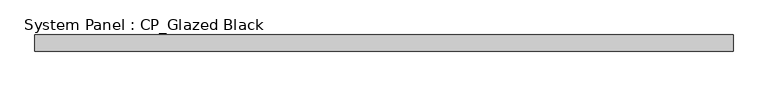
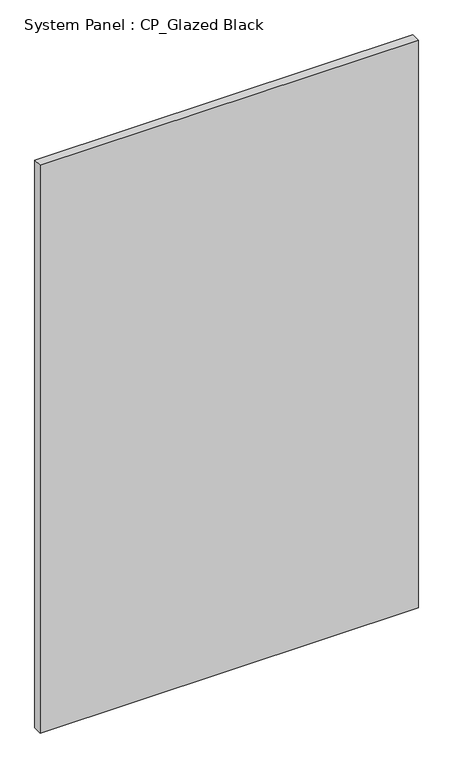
"""IFC4 building model written with IfcOpenShell, lengths in millimetres: plate geometry, System Panel : CP_Glazed Black."""

import ifcopenshell
import ifcopenshell.guid

model = None  # the IFC model being written
_history = None  # IfcOwnerHistory: only IFC2X3 demands one
_inside = {}  # id of a spatial element -> (the spatial element, [elements in it])
_under = {}  # id of a project, library or spatial element -> (it, [spatial elements below it])
_declared = {}  # id of a project -> (the project, [libraries it declares])
_typed = {}  # id of a type object -> (the type object, [elements of that type])
_made_of = {}  # id of a material, layer set ... -> (it, [elements and type objects made of it])


def new_model(schema):
    """Start an empty IFC model of exactly this schema.

    Asked for "IFC4X3", IfcOpenShell would pick the latest addendum, in which some entities
    have other attributes; the version numbers below select the first issue.
    IFC2X3 requires an IfcOwnerHistory on every rooted entity: one is made here for all.
    """
    global model, _history
    if schema == "IFC4X3":
        model = ifcopenshell.file(schema_version=(4, 3, 0, 0))
    else:
        model = ifcopenshell.file(schema=schema)
    _inside.clear()
    _under.clear()
    _declared.clear()
    _typed.clear()
    _made_of.clear()
    _history = None
    if model.schema == "IFC2X3":
        org = make("IfcOrganization", Name="unknown")
        user = make(
            "IfcPersonAndOrganization",
            ThePerson=make("IfcPerson", FamilyName="unknown"),
            TheOrganization=org,
        )
        app = make(
            "IfcApplication",
            ApplicationDeveloper=org,
            Version="unknown",
            ApplicationFullName="unknown",
            ApplicationIdentifier="unknown",
        )
        _history = make(
            "IfcOwnerHistory",
            OwningUser=user,
            OwningApplication=app,
            ChangeAction="ADDED",
            CreationDate=0,
        )
    return model


def make(cls, **values):
    """One entity of the class cls with the attributes given. An attribute that is None is left unset."""
    return model.create_entity(
        cls, **{name: value for name, value in values.items() if value is not None}
    )


def rooted(cls, **values):
    """An entity with a GlobalId (a new one), such as an element, a storey or a relation."""
    return make(cls, GlobalId=ifcopenshell.guid.new(), OwnerHistory=_history, **values)


def si_unit(unit_type, name, prefix=None):
    """IfcSIUnit, for example si_unit("LENGTHUNIT", "METRE", prefix="MILLI")."""
    return make("IfcSIUnit", UnitType=unit_type, Prefix=prefix, Name=name)


def assignment(units):
    """IfcUnitAssignment: the units of a project."""
    return None if units is None else make("IfcUnitAssignment", Units=units)


def point(xyz):
    """IfcCartesianPoint."""
    return None if xyz is None else make("IfcCartesianPoint", Coordinates=xyz)


def direction(xyz):
    """IfcDirection."""
    return None if xyz is None else make("IfcDirection", DirectionRatios=xyz)


def frame(location, z_axis=None, x_axis=None):
    """IfcAxis2Placement3D, a coordinate frame: its origin and axes. An axis left out is left unset."""
    return make(
        "IfcAxis2Placement3D",
        Location=point(location),
        Axis=direction(z_axis),
        RefDirection=direction(x_axis),
    )


def origin():
    """The frame at (0, 0, 0) with its axes left unset."""
    return frame((0.0, 0.0, 0.0))


def origin_with_axes():
    """The frame at (0, 0, 0) with the z axis (0, 0, 1) and the x axis (1, 0, 0) written out."""
    return frame((0.0, 0.0, 0.0), z_axis=(0.0, 0.0, 1.0), x_axis=(1.0, 0.0, 0.0))


def place(relative_to, where):
    """IfcLocalPlacement: puts the frame where relative to a parent placement (None: the world)."""
    return make(
        "IfcLocalPlacement", PlacementRelTo=relative_to, RelativePlacement=where
    )


def context(
    kind, dimensions, precision=None, world=None, true_north=None, identifier=None
):
    """IfcGeometricRepresentationContext, for example the 3D "Model" context."""
    return make(
        "IfcGeometricRepresentationContext",
        ContextIdentifier=identifier,
        ContextType=kind,
        CoordinateSpaceDimension=dimensions,
        Precision=precision,
        WorldCoordinateSystem=world,
        TrueNorth=true_north,
    )


def project(units=None, contexts=None):
    """IfcProject with its units and contexts."""
    return rooted(
        "IfcProject",
        Name="project",
        RepresentationContexts=contexts,
        UnitsInContext=assignment(units),
    )


def spatial(cls, under=None, at=None, **own):
    """A site, building, storey or space (cls), placed at a placement, below another one or the project."""
    s = rooted(cls, ObjectPlacement=at, **own)
    if under is not None:
        _under.setdefault(under.id(), (under, []))[1].append(s)
    return s


def polyline(points):
    """IfcPolyline through the points."""
    return make("IfcPolyline", Points=[point(p) for p in points])


def outline(outer, holes=None, kind="AREA"):
    """IfcArbitraryClosedProfileDef: a profile drawn as a closed curve; with holes, ...WithVoids."""
    if holes is None:
        return make("IfcArbitraryClosedProfileDef", ProfileType=kind, OuterCurve=outer)
    return make(
        "IfcArbitraryProfileDefWithVoids",
        ProfileType=kind,
        OuterCurve=outer,
        InnerCurves=holes,
    )


def extrude(swept, where, along, depth):
    """IfcExtrudedAreaSolid: the profile swept, set in the frame where, extruded along a direction by depth."""
    return make(
        "IfcExtrudedAreaSolid",
        SweptArea=swept,
        Position=where,
        ExtrudedDirection=direction(along),
        Depth=depth,
    )


def shape(context_of_items, identifier, shape_type, items):
    """IfcShapeRepresentation: the items that make up one representation, for example the "Body"."""
    return make(
        "IfcShapeRepresentation",
        ContextOfItems=context_of_items,
        RepresentationIdentifier=identifier,
        RepresentationType=shape_type,
        Items=items,
    )


def source(mapping_origin, context_of_items, identifier, shape_type, items):
    """IfcRepresentationMap: a shape defined once, which mapped items show again and again."""
    return make(
        "IfcRepresentationMap",
        MappingOrigin=mapping_origin,
        MappedRepresentation=shape(context_of_items, identifier, shape_type, items),
    )


def transform(
    local_origin,
    x_axis=None,
    y_axis=None,
    z_axis=None,
    scale=None,
    scale2=None,
    scale3=None,
    uniform=True,
):
    """IfcCartesianTransformationOperator3D, or its non-uniform kind. x_axis, y_axis, z_axis: its Axis1, 2, 3."""
    if uniform:
        return make(
            "IfcCartesianTransformationOperator3D",
            Axis1=direction(x_axis),
            Axis2=direction(y_axis),
            LocalOrigin=point(local_origin),
            Scale=scale,
            Axis3=direction(z_axis),
        )
    return make(
        "IfcCartesianTransformationOperator3DnonUniform",
        Axis1=direction(x_axis),
        Axis2=direction(y_axis),
        LocalOrigin=point(local_origin),
        Scale=scale,
        Axis3=direction(z_axis),
        Scale2=scale2,
        Scale3=scale3,
    )


def mapped(mapping_source, mapping_target):
    """IfcMappedItem: shows the shape of a source again, moved by a transform."""
    return make(
        "IfcMappedItem", MappingSource=mapping_source, MappingTarget=mapping_target
    )


def made_of(thing, what):
    """Note that an element or type object is made of a material, layer set ...; save() writes the relation."""
    if what is not None:
        _made_of.setdefault(what.id(), (what, []))[1].append(thing)
    return thing


def element(
    cls,
    number,
    at=None,
    inside=None,
    cuts=None,
    type_object=None,
    material=None,
    context=None,
    identifier="Body",
    shape_type=None,
    held_by="IfcProductDefinitionShape",
    body=None,
    shapes=None,
    **own,
):
    """One element of the class cls, such as IfcWall. Its Tag is "e" and its number.

    at: its placement. inside: the storey or other place that contains it. cuts: it is an
    opening in that element (IfcRelVoidsElement). A single representation is given by context,
    identifier, shape_type and body (its items); several are given by shapes. held_by: the class
    of the entity that holds the representations. save() writes the other relations.
    """
    e = rooted(cls, Tag="e%d" % number, ObjectPlacement=at, **own)
    if body is not None:
        shapes = [shape(context, identifier, shape_type, body)]
    if shapes is not None:
        e.Representation = make(held_by, Representations=shapes)
    if inside is not None:
        _inside.setdefault(inside.id(), (inside, []))[1].append(e)
    if cuts is not None:
        rooted(
            "IfcRelVoidsElement", RelatingBuildingElement=cuts, RelatedOpeningElement=e
        )
    if type_object is not None:
        _typed.setdefault(type_object.id(), (type_object, []))[1].append(e)
    return made_of(e, material)


def aggregate(whole, parts):
    """IfcRelAggregates: a whole, such as a stair, and the parts it consists of."""
    return rooted("IfcRelAggregates", RelatingObject=whole, RelatedObjects=parts)


def save(model, path):
    """Write the relations noted so far, then the file.

    IfcRelAggregates (storeys below a building ...), IfcRelContainedInSpatialStructure (elements
    in a storey), IfcRelDefinesByType, IfcRelAssociatesMaterial and IfcRelDeclares: one each for
    every whole, place, type object, material and project.
    """
    for whole, parts in _under.values():
        aggregate(whole, parts)
    for where, things in _inside.values():
        rooted(
            "IfcRelContainedInSpatialStructure",
            RelatedElements=things,
            RelatingStructure=where,
        )
    for kind, things in _typed.values():
        rooted("IfcRelDefinesByType", RelatedObjects=things, RelatingType=kind)
    for what, things in _made_of.values():
        rooted("IfcRelAssociatesMaterial", RelatedObjects=things, RelatingMaterial=what)
    for by, libraries in _declared.values():
        rooted("IfcRelDeclares", RelatingContext=by, RelatedDefinitions=libraries)
    model.write(path)


def system_panel_cp_glazed_black_4246e125(model_context):
    return source(origin(), model_context, "Body", "SweptSolid", [
        extrude(outline(polyline([(536.5899455, 19.05), (-536.5899455, 19.05), (-536.5899455, 44.45), (536.5899455, 44.45), (536.5899455, 19.05)])), origin_with_axes(), (0.0, 0.0, 1.0), 1701.8),
    ])


if __name__ == "__main__":
    model = new_model("IFC4")
    model_context = context("Model", 3, world=origin())
    ifc_project = project(units=[si_unit("LENGTHUNIT", "METRE", prefix="MILLI")], contexts=[model_context])
    site = spatial("IfcSite", under=ifc_project)
    building = spatial("IfcBuilding", under=site)
    placement = place(None, origin())
    system_panel_cp_glazed_black_shape = system_panel_cp_glazed_black_4246e125(model_context)
    element("IfcPlate", 1, ObjectType="System Panel : CP_Glazed Black", at=placement, inside=building, context=model_context, shape_type="MappedRepresentation", body=[
        mapped(system_panel_cp_glazed_black_shape, transform((0.0, 0.0, 0.0), x_axis=(1.0, 0.0, 0.0), y_axis=(0.0, 1.0, 0.0), z_axis=(0.0, 0.0, 1.0))),
    ])
    save(model, "model.ifc")
